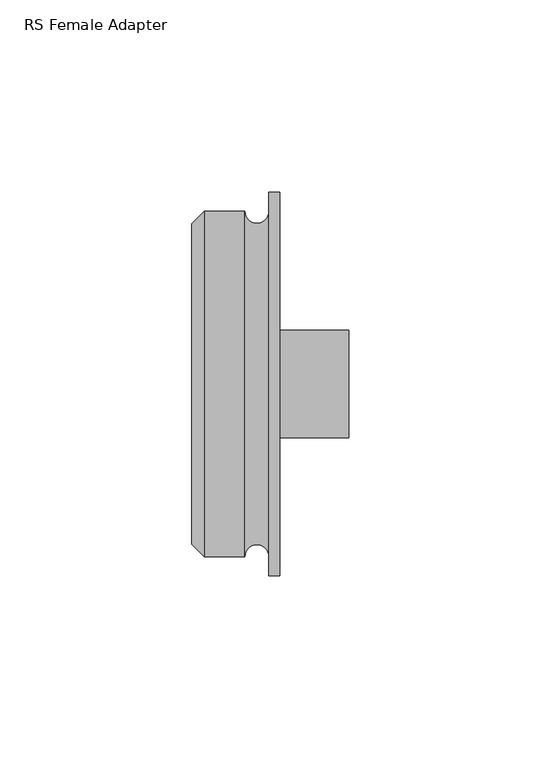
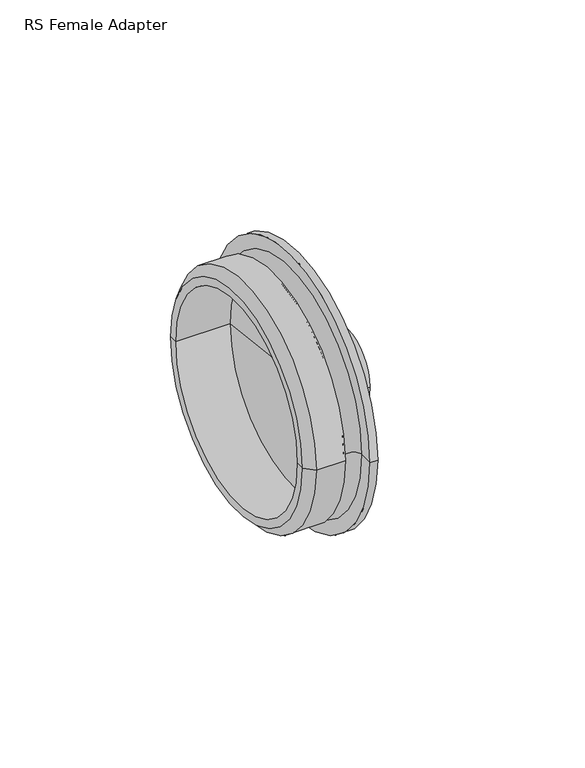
"""IFC4 building model written with IfcOpenShell, lengths in millimetres: pipe fitting geometry, RS Female Adapter : Superpipe RS3 FT Adapter ½”."""

from ifc_helpers import new_model, si_unit, point, frame, origin, place, context, project, spatial, polyline, circle_curve, ellipse_curve, trimmed, source, transform, mapped, element, save
from ifc_brep_helpers import plane_surface, cylinder_surface, revolved_surface, advanced_brep


def rs_female_adapter_0a1702e8(model_context):
    return source(origin(), model_context, "Body", "AdvancedBrep", [
        advanced_brep(
        [(20.0, -50.0, 0.0), (20.0, 50.0, 0.0), (22.8, 50.0, 0.0), (22.8, -50.0, 0.0), (20.0, -45.0, 0.0), (20.0, 45.0, 0.0), (22.8, 10.0, 0.0), (22.8, -10.0, 0.0), (0.0, -41.8, 0.0), (0.0, 41.8, 0.0), (3.2, 45.0, 0.0), (3.2, -45.0, 0.0), (0.0, -38.8, 0.0), (0.0, 38.8, 0.0), (13.8, -45.0, 0.0), (13.8, 45.0, 0.0), (20.0, -38.8, 0.0), (20.0, 38.8, 0.0)],
        [
            (0, 1, circle_curve(frame((20.0, 0.0, 0.0), z_axis=(1.0, 0.0, 0.0), x_axis=(0.0, 1.0, 0.0)), 50.0)),
            (1, 2),
            (2, 3, circle_curve(frame((22.8, 0.0, 0.0), z_axis=(-1.0, 0.0, 0.0), x_axis=(0.0, 1.0, 0.0)), 50.0)),
            (3, 0),
            (1, 0, circle_curve(frame((20.0, 0.0, 0.0), z_axis=(1.0, 0.0, 0.0), x_axis=(0.0, 1.0, 0.0)), 50.0)),
            (3, 2, circle_curve(frame((22.8, 0.0, 0.0), z_axis=(-1.0, 0.0, 0.0), x_axis=(0.0, 1.0, 0.0)), 50.0)),
            (0, 4),
            (4, 5, circle_curve(frame((20.0, 0.0, 0.0), z_axis=(1.0, 0.0, 0.0), x_axis=(0.0, 1.0, 0.0)), 45.0)),
            (5, 1),
            (5, 4, circle_curve(frame((20.0, 0.0, 0.0), z_axis=(1.0, 0.0, 0.0), x_axis=(0.0, 1.0, 0.0)), 45.0)),
            (2, 6),
            (6, 7, circle_curve(frame((22.8, 0.0, 0.0), z_axis=(-1.0, 0.0, 0.0), x_axis=(0.0, 1.0, 0.0)), 10.0)),
            (7, 3),
            (7, 6, circle_curve(frame((22.8, 0.0, 0.0), z_axis=(-1.0, 0.0, 0.0), x_axis=(0.0, 1.0, 0.0)), 10.0)),
            (8, 9, circle_curve(frame((0.0, 0.0, 0.0), z_axis=(1.0, 0.0, 0.0), x_axis=(0.0, 1.0, 0.0)), 41.8)),
            (9, 10),
            (10, 11, circle_curve(frame((3.2, 0.0, 0.0), z_axis=(-1.0, 0.0, 0.0), x_axis=(0.0, 1.0, 0.0)), 45.0)),
            (11, 8),
            (9, 8, circle_curve(frame((0.0, 0.0, 0.0), z_axis=(1.0, 0.0, 0.0), x_axis=(0.0, 1.0, 0.0)), 41.8)),
            (11, 10, circle_curve(frame((3.2, 0.0, 0.0), z_axis=(-1.0, 0.0, 0.0), x_axis=(0.0, 1.0, 0.0)), 45.0)),
            (8, 12),
            (12, 13, circle_curve(frame((0.0, 0.0, 0.0), z_axis=(1.0, 0.0, 0.0), x_axis=(0.0, 1.0, 0.0)), 38.8)),
            (13, 9),
            (13, 12, circle_curve(frame((0.0, 0.0, 0.0), z_axis=(1.0, 0.0, 0.0), x_axis=(0.0, 1.0, 0.0)), 38.8)),
            (4, 14, circle_curve(frame((16.9, -45.0, 0.0), z_axis=(0.0, 0.0, 1.0), x_axis=(1.0, 0.0, 0.0)), 3.1)),
            (14, 15, circle_curve(frame((13.8, 0.0, 0.0), z_axis=(1.0, 0.0, 0.0), x_axis=(0.0, 1.0, 0.0)), 45.0)),
            (15, 5, circle_curve(frame((16.9, 45.0, 0.0), z_axis=(0.0, 0.0, 1.0), x_axis=(1.0, 0.0, 0.0)), 3.1)),
            (15, 14, circle_curve(frame((13.8, 0.0, 0.0), z_axis=(1.0, 0.0, 0.0), x_axis=(0.0, 1.0, 0.0)), 45.0)),
            (10, 15),
            (14, 11),
            (12, 16),
            (16, 17, circle_curve(frame((20.0, 0.0, 0.0), z_axis=(1.0, 0.0, 0.0), x_axis=(0.0, 1.0, 0.0)), 38.8)),
            (17, 13),
            (17, 16, circle_curve(frame((20.0, 0.0, 0.0), z_axis=(1.0, 0.0, 0.0), x_axis=(0.0, 1.0, 0.0)), 38.8)),
            (16, 7),
            (6, 17),
        ],
        [
            cylinder_surface(frame((1960.8, 0.0, 0.0), z_axis=(-1.0, 0.0, 0.0), x_axis=(0.0, 1.0, 0.0)), 50.0),
            plane_surface(frame((20.0, 0.0, 0.0), z_axis=(-1.0, 0.0, 0.0), x_axis=(0.0, 1.0, 0.0))),
            plane_surface(frame((22.8, 0.0, 0.0), z_axis=(1.0, 0.0, 0.0), x_axis=(0.0, 1.0, 0.0))),
            revolved_surface(polyline([(3.2, 45.0, 0.0), (0.0, 41.8, 0.0)]), (1960.8, 0.0, 0.0), (-1.0, 0.0, 0.0)),
            plane_surface(frame((0.0, 0.0, 0.0), z_axis=(-1.0, 0.0, 0.0), x_axis=(0.0, 1.0, 0.0))),
            revolved_surface(trimmed(ellipse_curve(frame((16.9, 45.0, 0.0), z_axis=(0.0, 0.0, -1.0), x_axis=(1.0, 0.0, 0.0)), 3.1, 3.1), [point((20.0, 45.0, 0.0))], [point((13.8, 45.0, 0.0))], True, "CARTESIAN"), (1960.8, 0.0, 0.0), (-1.0, 0.0, 0.0)),
            cylinder_surface(frame((1960.8, 0.0, 0.0), z_axis=(-1.0, 0.0, 0.0), x_axis=(0.0, 1.0, 0.0)), 45.0),
            revolved_surface(polyline([(0.0, 38.8, 0.0), (20.0, 38.8, 0.0)]), (1987.0, 0.0, 0.0), (-1.0, 0.0, 0.0)),
            revolved_surface(polyline([(20.0, 38.8, 0.0), (22.8, 10.0, 0.0)]), (1987.0, 0.0, 0.0), (-1.0, 0.0, 0.0)),
        ],
        [
            (0, [[1, 2, 3, 4]]),
            (0, [[-2, 5, -4, 6]]),
            (1, [[-1, 7, 8, 9]]),
            (1, [[-5, -9, 10, -7]]),
            (2, [[-3, 11, 12, 13]]),
            (2, [[-6, -13, 14, -11]]),
            (3, [[15, 16, 17, 18]]),
            (3, [[-16, 19, -18, 20]]),
            (4, [[-15, 21, 22, 23]]),
            (4, [[-19, -23, 24, -21]]),
            (5, [[-8, 25, 26, 27]]),
            (5, [[-10, -27, 28, -25]]),
            (6, [[-17, 29, -26, 30]]),
            (6, [[-20, -30, -28, -29]]),
            (7, [[31, 32, 33, -22]]),
            (7, [[-31, -24, -33, 34]]),
            (8, [[-32, 35, -12, 36]]),
            (8, [[-34, -36, -14, -35]]),
        ],
    ),
        advanced_brep(
        [(40.8, -14.0, 0.0), (40.8, 14.0, 0.0), (40.8, 10.0, 0.0), (40.8, -10.0, 0.0), (22.8, 10.0, 0.0), (22.8, -10.0, 0.0), (22.8, 14.0, 0.0), (22.8, -14.0, 0.0)],
        [
            (0, 1, circle_curve(frame((40.8, 0.0, 0.0), z_axis=(1.0, 0.0, 0.0), x_axis=(0.0, 1.0, 0.0)), 14.0)),
            (1, 2),
            (2, 3, circle_curve(frame((40.8, 0.0, 0.0), z_axis=(-1.0, 0.0, 0.0), x_axis=(0.0, 1.0, 0.0)), 10.0)),
            (3, 0),
            (2, 4),
            (4, 5, circle_curve(frame((22.8, 0.0, 0.0), z_axis=(-1.0, 0.0, 0.0), x_axis=(0.0, 1.0, 0.0)), 10.0)),
            (5, 3),
            (4, 6),
            (6, 7, circle_curve(frame((22.8, 0.0, 0.0), z_axis=(-1.0, 0.0, 0.0), x_axis=(0.0, 1.0, 0.0)), 14.0)),
            (7, 5),
            (6, 1),
            (0, 7),
            (6, 7, circle_curve(frame((22.8, 0.0, 0.0), z_axis=(1.0, 0.0, 0.0), x_axis=(0.0, 1.0, 0.0)), 14.0)),
            (0, 1, circle_curve(frame((40.8, 0.0, 0.0), z_axis=(-1.0, 0.0, 0.0), x_axis=(0.0, 1.0, 0.0)), 14.0)),
            (4, 5, circle_curve(frame((22.8, 0.0, 0.0), z_axis=(1.0, 0.0, 0.0), x_axis=(0.0, 1.0, 0.0)), 10.0)),
            (2, 3, circle_curve(frame((40.8, 0.0, 0.0), z_axis=(1.0, 0.0, 0.0), x_axis=(0.0, 1.0, 0.0)), 10.0)),
        ],
        [
            plane_surface(frame((40.8, 0.0, 0.0), z_axis=(1.0, 0.0, 0.0), x_axis=(0.0, 1.0, 0.0))),
            revolved_surface(polyline([(22.799999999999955, 10.0, 0.0), (40.799999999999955, 10.0, 0.0)]), (1996.0, 0.0, 0.0), (-1.0, 0.0, 0.0)),
            plane_surface(frame((22.8, 0.0, 0.0), z_axis=(-1.0, 0.0, 0.0), x_axis=(0.0, 1.0, 0.0))),
            cylinder_surface(frame((1996.0, 0.0, 0.0), z_axis=(-1.0, 0.0, 0.0), x_axis=(0.0, 1.0, 0.0)), 14.0),
        ],
        [
            (0, [[1, 2, 3, 4]]),
            (1, [[-3, 5, 6, 7]]),
            (2, [[-6, 8, 9, 10]]),
            (3, [[-9, 11, -1, 12]]),
            (3, [[13, -12, 14, -11]]),
            (2, [[15, -10, -13, -8]]),
            (1, [[16, -7, -15, -5]]),
            (0, [[-14, -4, -16, -2]]),
        ],
    ),
    ])


if __name__ == "__main__":
    model = new_model("IFC4")
    model_context = context("Model", 3, world=origin())
    ifc_project = project(units=[si_unit("LENGTHUNIT", "METRE", prefix="MILLI")], contexts=[model_context])
    site = spatial("IfcSite", under=ifc_project)
    building = spatial("IfcBuilding", under=site)
    placement = place(None, origin())
    rs_female_adapter_shape = rs_female_adapter_0a1702e8(model_context)
    element("IfcPipeFitting", 1, ObjectType="RS Female Adapter : Superpipe RS3 FT Adapter ½”", at=placement, inside=building, context=model_context, shape_type="MappedRepresentation", body=[
        mapped(rs_female_adapter_shape, transform((0.0, 0.0, 0.0), x_axis=(1.0, 0.0, 0.0), y_axis=(0.0, 1.0, 0.0), z_axis=(0.0, 0.0, 1.0))),
    ])
    save(model, "model.ifc")
